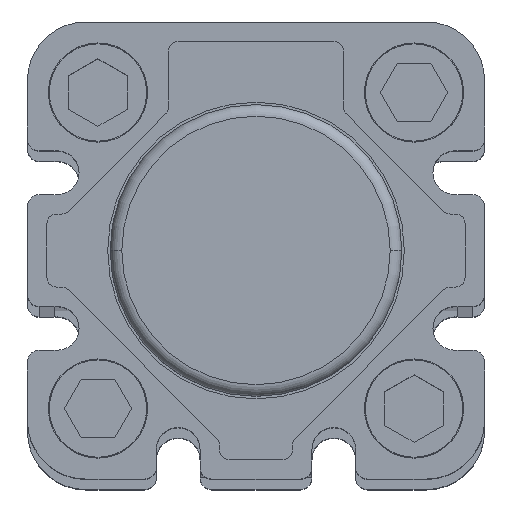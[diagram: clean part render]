
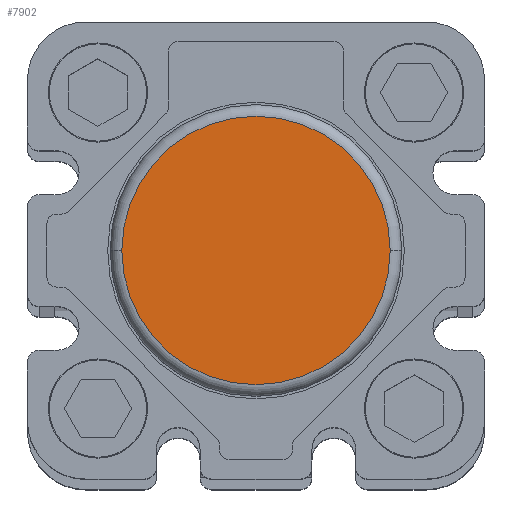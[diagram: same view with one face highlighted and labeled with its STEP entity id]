
A CAD part, top view. The second image highlights one B-rep face of the part: STEP entity #7902.
In plain terms, the highlighted planar face has unit normal (0, 0, 1).
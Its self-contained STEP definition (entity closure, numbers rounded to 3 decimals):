
#1450=CARTESIAN_POINT('',(7.45,-21.25,623.0));
#1451=VERTEX_POINT('',#1450);
#1459=CARTESIAN_POINT('',(35.05,-21.25,623.0));
#1460=VERTEX_POINT('',#1459);
#1461=CARTESIAN_POINT('',(21.25,-21.25,623.0));
#1462=DIRECTION('',(0.0,0.0,-1.0));
#1463=DIRECTION('',(-1.0,0.0,0.0));
#1464=AXIS2_PLACEMENT_3D('',#1461,#1462,#1463);
#1465=CIRCLE('',#1464,13.8);
#1466=EDGE_CURVE('',#1451,#1460,#1465,.T.);
#7871=CARTESIAN_POINT('',(21.25,-21.25,623.0));
#7872=DIRECTION('',(0.0,0.0,-1.0));
#7873=DIRECTION('',(-1.0,0.0,0.0));
#7874=AXIS2_PLACEMENT_3D('',#7871,#7872,#7873);
#7875=CIRCLE('',#7874,13.8);
#7876=EDGE_CURVE('',#1460,#1451,#7875,.T.);
#7893=CARTESIAN_POINT('',(21.25,-21.25,623.0));
#7894=DIRECTION('',(0.0,0.0,1.0));
#7895=DIRECTION('',(1.0,0.0,0.0));
#7896=AXIS2_PLACEMENT_3D('',#7893,#7894,#7895);
#7897=PLANE('',#7896);
#7898=ORIENTED_EDGE('',*,*,#7876,.F.);
#7899=ORIENTED_EDGE('',*,*,#1466,.F.);
#7900=EDGE_LOOP('',(#7898,#7899));
#7901=FACE_OUTER_BOUND('',#7900,.T.);
#7902=ADVANCED_FACE('',(#7901),#7897,.T.);
